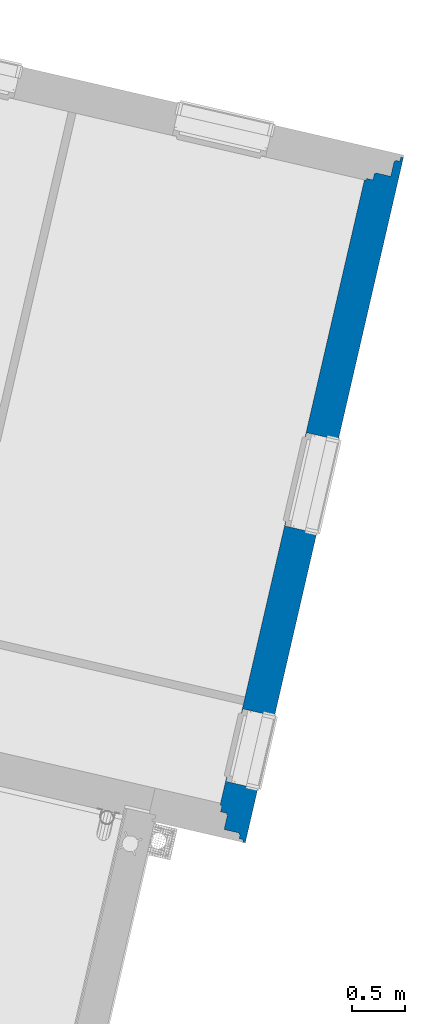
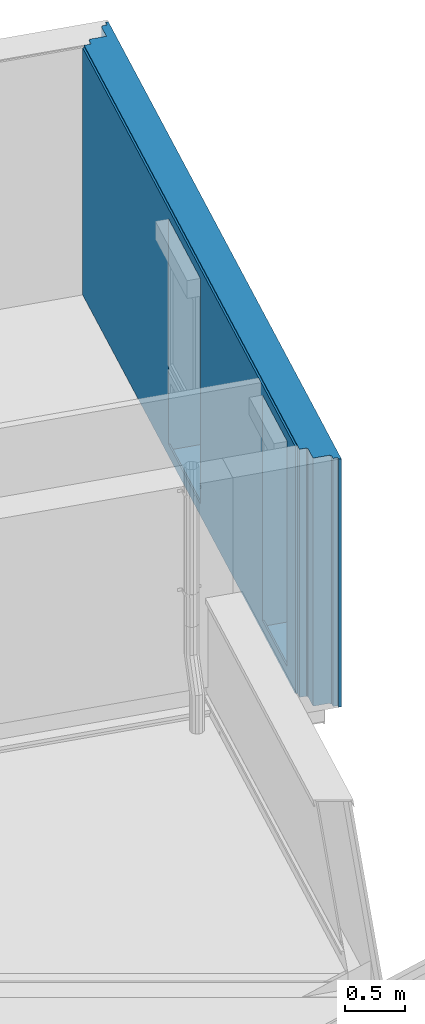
# One storey, part 3 of 47: 1 wall, 2 openings.
"""IFC2X3 building model written with IfcOpenShell, lengths in metres."""

from ifc_helpers import new_model, entity, si_unit, converted_unit, derived_unit, money_unit, direction, frame, origin_with_axes, place, context, subcontext, project, spatial, faceted_brep, material, material_list, type_object, element, save


model = new_model("IFC2X3")

# Units and contexts
model_context = context("Model", 3, precision=1e-05, world=origin_with_axes(), true_north=direction((0.0, 1.0)))
body_context = subcontext(model_context, "Body", "Model", "MODEL_VIEW")
ifc_project = project(units=[si_unit("LENGTHUNIT", "METRE"), si_unit("AREAUNIT", "SQUARE_METRE"), si_unit("VOLUMEUNIT", "CUBIC_METRE"), converted_unit("PLANEANGLEUNIT", "DEGREE", entity("IfcPlaneAngleMeasure", 0.0174532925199), si_unit("PLANEANGLEUNIT", "RADIAN"), dimensions=[0, 0, 0, 0, 0, 0, 0]), si_unit("SOLIDANGLEUNIT", "STERADIAN"), money_unit("EUR"), converted_unit("TIMEUNIT", "Year", entity("IfcTimeMeasure", 31556926.0), si_unit("TIMEUNIT", "SECOND"), dimensions=[0, 0, 1, 0, 0, 0, 0]), si_unit("MASSUNIT", "GRAM", prefix="KILO"), si_unit("THERMODYNAMICTEMPERATUREUNIT", "DEGREE_CELSIUS"), si_unit("LUMINOUSINTENSITYUNIT", "LUMEN"), si_unit("ENERGYUNIT", "JOULE", prefix="MEGA"), derived_unit("THERMALCONDUCTANCEUNIT", [(si_unit("POWERUNIT", "WATT"), 1), (si_unit("LENGTHUNIT", "METRE"), -1), (si_unit("THERMODYNAMICTEMPERATUREUNIT", "KELVIN"), -1)]), derived_unit("SPECIFICHEATCAPACITYUNIT", [(si_unit("ENERGYUNIT", "JOULE"), 1), (si_unit("MASSUNIT", "GRAM", prefix="KILO"), -1), (si_unit("THERMODYNAMICTEMPERATUREUNIT", "KELVIN"), -1)]), derived_unit("MASSDENSITYUNIT", [(si_unit("MASSUNIT", "GRAM", prefix="KILO"), 1), (si_unit("VOLUMEUNIT", "CUBIC_METRE"), -1)])], contexts=[model_context])

# Site, building, storey
site_placement = place(None, origin_with_axes())
site = spatial("IfcSite", under=ifc_project, at=site_placement, Name="Site", CompositionType="ELEMENT")
building_placement = place(site_placement, origin_with_axes())
building = spatial("IfcBuilding", under=site, at=building_placement, Name="Bâtiment", CompositionType="ELEMENT")
storey_placement = place(building_placement, frame((0.0, 0.0, 10.88), z_axis=(0.0, 0.0, 1.0), x_axis=(1.0, 0.0, 0.0)))
storey = spatial("IfcBuildingStorey", under=building, at=storey_placement, Name="R+4", CompositionType="ELEMENT", Elevation=10.88)

# Wall, openings
ifc_material_1 = material(Name="Finition ext - Bardage bois")
ifc_material_2 = material(Name="Bois - Lattage")
ifc_material_3 = material(Name="Bois - OSB 02")
ifc_material_4 = material(Name="Isolation - Laine de verre")
ifc_material_5 = material(Name="Etanchéité - Pare-vapeur")
ifc_material_6 = material(Name="Finition int - Plaque de plâtre")
ifc_material_list = material_list([ifc_material_1, ifc_material_2, ifc_material_3, ifc_material_4, ifc_material_5, ifc_material_4, ifc_material_6])
wall_type = type_object("IfcWallType", Name="1 - Mur Ossature Bois 145 isolé + bardage 310", PredefinedType="ELEMENTEDWALL")
wall_placement = place(storey_placement, frame((1.24356243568, 12.8226393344, 0.0), z_axis=(0.0, 0.0, 1.0), x_axis=(-0.224876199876, -0.974387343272, 0.0)))
wall = element("IfcWall", 1, at=wall_placement, inside=storey, type_object=wall_type, material=ifc_material_list, Name="M_Ext-007", ObjectType="ELEMENTEDWALL", context=body_context, shape_type="Brep", body=[
    faceted_brep([(5.40779590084, -0.01, 0.12), (5.40779590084, 0.015, 0.12), (5.40779590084, 0.015, 2.22), (5.40779590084, -0.01, 2.22), (5.40779590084, 0.015, 0.06), (5.40779590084, -0.01, 0.06), (6.62900000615, 0.015, 2.51), (6.62900000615, 0.015, 0.0), (0.0249999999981, 0.015, 0.0), (0.0249999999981, 0.015, 2.51), (3.64526385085, 0.015, 0.06), (3.64526385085, 0.015, 0.12), (3.64526385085, 0.015, 2.22), (2.74526385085, 0.015, 2.22), (2.74526385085, 0.015, 0.12), (2.74526385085, 0.015, 0.06), (6.10779590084, 0.015, 0.06), (6.10779590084, 0.015, 0.12), (6.10779590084, 0.015, 2.22), (6.10779590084, -0.01, 2.22), (6.62900000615, -0.01, 0.0), (6.62900000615, -0.01, 2.51), (0.0250000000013, -0.01, 2.51), (0.0250000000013, -0.01, 0.0), (2.74526385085, -0.01, 0.06), (2.74526385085, -0.01, 0.12), (2.74526385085, -0.01, 2.22), (3.64526385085, -0.01, 2.22), (3.64526385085, -0.01, 0.12), (3.64526385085, -0.01, 0.06), (6.10779590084, -0.01, 0.12), (6.10779590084, -0.01, 0.06)], [[[0, 1, 2, 3]], [[4, 1, 0, 5]], [[6, 7, 8, 9], [10, 11, 12, 13, 14, 15], [16, 17, 18, 2, 1, 4]], [[18, 19, 3, 2]], [[20, 21, 22, 23], [24, 25, 26, 27, 28, 29], [5, 0, 3, 19, 30, 31]], [[16, 4, 5, 31]], [[6, 21, 20, 7]], [[7, 20, 23, 8]], [[23, 22, 9, 8]], [[21, 6, 9, 22]], [[10, 29, 28, 11]], [[27, 12, 11, 28]], [[26, 13, 12, 27]], [[13, 26, 25, 14]], [[25, 24, 15, 14]], [[24, 29, 10, 15]], [[30, 17, 16, 31]], [[17, 30, 19, 18]]]),
    faceted_brep([(5.40779590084, -0.05, 0.12), (5.40779590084, -0.05, 0.06), (5.40779590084, -0.01, 0.06), (5.40779590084, -0.01, 0.12), (5.40779590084, -0.01, 2.22), (5.40779590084, -0.05, 2.22), (6.60400000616, -0.05, 0.0), (6.60400000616, -0.05, 2.51), (0.0650000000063, -0.05, 2.51), (0.0650000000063, -0.05, 0.0), (2.74526385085, -0.05, 0.06), (2.74526385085, -0.05, 0.12), (2.74526385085, -0.05, 2.22), (3.64526385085, -0.05, 2.22), (3.64526385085, -0.05, 0.12), (3.64526385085, -0.05, 0.06), (6.10779590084, -0.05, 2.22), (6.10779590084, -0.05, 0.12), (6.10779590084, -0.05, 0.06), (6.10779590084, -0.01, 0.06), (6.60400000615, -0.01, 2.51), (6.60400000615, -0.01, 0.0), (0.0650000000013, -0.01, 0.0), (0.0650000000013, -0.01, 2.51), (3.64526385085, -0.01, 0.06), (3.64526385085, -0.01, 0.12), (3.64526385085, -0.01, 2.22), (2.74526385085, -0.01, 2.22), (2.74526385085, -0.01, 0.12), (2.74526385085, -0.01, 0.06), (6.10779590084, -0.01, 0.12), (6.10779590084, -0.01, 2.22)], [[[0, 1, 2, 3, 4, 5]], [[6, 7, 8, 9], [10, 11, 12, 13, 14, 15], [1, 0, 5, 16, 17, 18]], [[19, 2, 1, 18]], [[20, 21, 22, 23], [24, 25, 26, 27, 28, 29], [19, 30, 31, 4, 3, 2]], [[31, 16, 5, 4]], [[20, 7, 6, 21]], [[7, 20, 23, 8]], [[9, 8, 23, 22]], [[21, 6, 9, 22]], [[11, 10, 29, 28, 27, 12]], [[12, 27, 26, 13]], [[25, 24, 15, 14, 13, 26]], [[10, 15, 24, 29]], [[30, 19, 18, 17, 16, 31]]]),
    faceted_brep([(5.40779590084, -0.062, 0.12), (5.40779590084, -0.062, 0.06), (5.40779590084, -0.05, 0.06), (5.40779590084, -0.05, 0.12), (5.40779590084, -0.05, 2.22), (5.40779590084, -0.062, 2.22), (6.56400000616, -0.062, 0.0), (6.56400000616, -0.062, 2.51), (0.0770000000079, -0.062, 2.51), (0.0770000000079, -0.062, 0.0), (2.74526385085, -0.062, 0.06), (2.74526385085, -0.062, 0.12), (2.74526385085, -0.062, 2.22), (3.64526385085, -0.062, 2.22), (3.64526385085, -0.062, 0.12), (3.64526385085, -0.062, 0.06), (6.10779590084, -0.062, 2.22), (6.10779590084, -0.062, 0.12), (6.10779590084, -0.062, 0.06), (6.10779590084, -0.05, 0.06), (6.56400000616, -0.05, 2.51), (6.56400000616, -0.05, 0.0), (0.0770000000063, -0.05, 0.0), (0.0770000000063, -0.05, 2.51), (3.64526385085, -0.05, 0.06), (3.64526385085, -0.05, 0.12), (3.64526385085, -0.05, 2.22), (2.74526385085, -0.05, 2.22), (2.74526385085, -0.05, 0.12), (2.74526385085, -0.05, 0.06), (6.10779590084, -0.05, 0.12), (6.10779590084, -0.05, 2.22)], [[[0, 1, 2, 3, 4, 5]], [[6, 7, 8, 9], [10, 11, 12, 13, 14, 15], [1, 0, 5, 16, 17, 18]], [[19, 2, 1, 18]], [[20, 21, 22, 23], [24, 25, 26, 27, 28, 29], [19, 30, 31, 4, 3, 2]], [[31, 16, 5, 4]], [[20, 7, 6, 21]], [[7, 20, 23, 8]], [[9, 8, 23, 22]], [[21, 6, 9, 22]], [[11, 10, 29, 28, 27, 12]], [[12, 27, 26, 13]], [[25, 24, 15, 14, 13, 26]], [[10, 15, 24, 29]], [[30, 19, 18, 17, 16, 31]]]),
    faceted_brep([(5.40779590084, -0.207, 0.12), (5.40779590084, -0.207, 0.06), (5.40779590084, -0.062, 0.06), (5.40779590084, -0.062, 0.12), (5.40779590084, -0.062, 2.22), (5.40779590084, -0.207, 2.22), (6.55200000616, -0.207, 0.0), (6.55200000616, -0.207, 2.51), (0.222000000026, -0.207, 2.51), (0.222000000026, -0.207, 0.0), (2.74526385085, -0.207, 0.06), (2.74526385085, -0.207, 0.12), (2.74526385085, -0.207, 2.22), (3.64526385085, -0.207, 2.22), (3.64526385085, -0.207, 0.12), (3.64526385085, -0.207, 0.06), (6.10779590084, -0.207, 2.22), (6.10779590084, -0.207, 0.12), (6.10779590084, -0.207, 0.06), (6.10779590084, -0.062, 0.06), (6.55200000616, -0.062, 2.51), (6.55200000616, -0.062, 0.0), (0.222000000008, -0.062, 0.0), (0.222000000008, -0.062, 2.51), (3.64526385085, -0.062, 0.06), (3.64526385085, -0.062, 0.12), (3.64526385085, -0.062, 2.22), (2.74526385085, -0.062, 2.22), (2.74526385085, -0.062, 0.12), (2.74526385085, -0.062, 0.06), (6.10779590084, -0.062, 0.12), (6.10779590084, -0.062, 2.22)], [[[0, 1, 2, 3, 4, 5]], [[6, 7, 8, 9], [10, 11, 12, 13, 14, 15], [1, 0, 5, 16, 17, 18]], [[19, 2, 1, 18]], [[20, 21, 22, 23], [24, 25, 26, 27, 28, 29], [19, 30, 31, 4, 3, 2]], [[31, 16, 5, 4]], [[20, 7, 6, 21]], [[7, 20, 23, 8]], [[9, 8, 23, 22]], [[21, 6, 9, 22]], [[11, 10, 29, 28, 27, 12]], [[12, 27, 26, 13]], [[25, 24, 15, 14, 13, 26]], [[10, 15, 24, 29]], [[30, 19, 18, 17, 16, 31]]]),
    faceted_brep([(5.40779590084, -0.217, 0.12), (5.40779590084, -0.217, 0.06), (5.40779590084, -0.207, 0.06), (5.40779590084, -0.207, 0.12), (5.40779590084, -0.207, 2.22), (5.40779590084, -0.21, 2.22), (5.40779590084, -0.21, 2.4), (5.40779590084, -0.217, 2.4), (5.40779590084, -0.217, 2.22), (0.232000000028, -0.217, 2.51), (0.232000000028, -0.217, 0.0), (6.40700000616, -0.217, 0.0), (6.40700000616, -0.217, 2.51), (3.64526385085, -0.217, 0.06), (2.74526385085, -0.217, 0.06), (2.74526385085, -0.217, 0.12), (2.74526385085, -0.217, 2.22), (2.74526385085, -0.217, 2.4), (3.64526385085, -0.217, 2.4), (3.64526385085, -0.217, 2.22), (3.64526385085, -0.217, 0.12), (6.10779590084, -0.217, 2.4), (6.10779590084, -0.217, 2.22), (6.10779590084, -0.217, 0.12), (6.10779590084, -0.217, 0.06), (6.10779590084, -0.207, 0.06), (0.232000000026, -0.207, 0.0), (0.232000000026, -0.207, 2.51), (6.40700000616, -0.207, 2.51), (6.40700000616, -0.207, 0.0), (2.74526385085, -0.207, 2.22), (2.74526385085, -0.207, 0.12), (2.74526385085, -0.207, 0.06), (3.64526385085, -0.207, 0.06), (3.64526385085, -0.207, 0.12), (3.64526385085, -0.207, 2.22), (6.10779590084, -0.207, 0.12), (6.10779590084, -0.207, 2.22), (6.10779590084, -0.21, 2.22), (6.10779590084, -0.21, 2.4), (2.74526385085, -0.21, 2.22), (2.74526385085, -0.21, 2.4), (3.64526385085, -0.21, 2.4), (3.64526385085, -0.21, 2.22)], [[[0, 1, 2, 3, 4, 5, 6, 7, 8]], [[9, 10, 11, 12], [13, 14, 15, 16, 17, 18, 19, 20], [1, 0, 8, 7, 21, 22, 23, 24]], [[25, 2, 1, 24]], [[26, 27, 28, 29], [30, 31, 32, 33, 34, 35], [25, 36, 37, 4, 3, 2]], [[5, 4, 37, 38]], [[38, 39, 6, 5]], [[7, 6, 39, 21]], [[27, 26, 10, 9]], [[10, 26, 29, 11]], [[11, 29, 28, 12]], [[27, 9, 12, 28]], [[13, 33, 32, 14]], [[15, 14, 32, 31, 30, 40, 41, 17, 16]], [[18, 17, 41, 42]], [[34, 33, 13, 20, 19, 18, 42, 43, 35]], [[36, 25, 24, 23, 22, 21, 39, 38, 37]], [[43, 40, 30, 35]], [[40, 43, 42, 41]]]),
    faceted_brep([(5.40779590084, -0.277, 0.12), (5.40779590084, -0.277, 0.06), (5.40779590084, -0.217, 0.06), (5.40779590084, -0.217, 0.12), (5.40779590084, -0.217, 2.22), (5.40779590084, -0.217, 2.4), (5.40779590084, -0.277, 2.4), (5.40779590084, -0.277, 2.22), (6.39700000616, -0.277, 0.0), (6.39700000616, -0.277, 2.51), (0.292000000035, -0.277, 2.51), (0.292000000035, -0.277, 0.0), (3.64526385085, -0.277, 2.4), (3.64526385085, -0.277, 2.22), (3.64526385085, -0.277, 0.12), (3.64526385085, -0.277, 0.06), (2.74526385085, -0.277, 0.06), (2.74526385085, -0.277, 0.12), (2.74526385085, -0.277, 2.22), (2.74526385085, -0.277, 2.4), (6.10779590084, -0.277, 2.4), (6.10779590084, -0.277, 2.22), (6.10779590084, -0.277, 0.12), (6.10779590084, -0.277, 0.06), (6.10779590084, -0.217, 0.06), (6.39700000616, -0.217, 2.51), (6.39700000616, -0.217, 0.0), (0.292000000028, -0.217, 0.0), (0.292000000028, -0.217, 2.51), (2.74526385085, -0.217, 2.4), (2.74526385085, -0.217, 2.22), (2.74526385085, -0.217, 0.12), (2.74526385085, -0.217, 0.06), (3.64526385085, -0.217, 0.06), (3.64526385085, -0.217, 0.12), (3.64526385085, -0.217, 2.22), (3.64526385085, -0.217, 2.4), (6.10779590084, -0.217, 0.12), (6.10779590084, -0.217, 2.22), (6.10779590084, -0.217, 2.4)], [[[0, 1, 2, 3, 4, 5, 6, 7]], [[8, 9, 10, 11], [12, 13, 14, 15, 16, 17, 18, 19], [1, 0, 7, 6, 20, 21, 22, 23]], [[24, 2, 1, 23]], [[25, 26, 27, 28], [29, 30, 31, 32, 33, 34, 35, 36], [24, 37, 38, 39, 5, 4, 3, 2]], [[39, 20, 6, 5]], [[25, 9, 8, 26]], [[9, 25, 28, 10]], [[11, 10, 28, 27]], [[26, 8, 11, 27]], [[13, 12, 36, 35, 34, 33, 15, 14]], [[33, 32, 16, 15]], [[30, 29, 19, 18, 17, 16, 32, 31]], [[36, 12, 19, 29]], [[37, 24, 23, 22, 21, 20, 39, 38]]]),
    faceted_brep([(5.40779590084, -0.281, 0.12), (5.40779590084, -0.281, 0.06), (5.40779590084, -0.277, 0.06), (5.40779590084, -0.277, 0.12), (5.40779590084, -0.277, 2.22), (5.40779590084, -0.277, 2.4), (5.40779590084, -0.295, 2.4), (5.40779590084, -0.295, 2.22), (5.40779590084, -0.295, 0.12), (6.10779590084, -0.281, 0.12), (6.10779590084, -0.281, 0.06), (6.10779590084, -0.277, 0.06), (6.33700000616, -0.277, 0.0), (0.310000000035, -0.277, 0.0), (0.310000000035, -0.277, 2.5), (6.33700000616, -0.277, 2.5), (2.74526385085, -0.277, 0.06), (3.64526385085, -0.277, 0.06), (3.64526385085, -0.277, 0.12), (3.64526385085, -0.277, 2.22), (3.64526385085, -0.277, 2.4), (2.74526385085, -0.277, 2.4), (2.74526385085, -0.277, 2.22), (2.74526385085, -0.277, 0.12), (6.10779590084, -0.277, 0.12), (6.10779590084, -0.277, 2.22), (6.10779590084, -0.277, 2.4), (6.10779590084, -0.295, 2.4), (0.310000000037, -0.295, 0.0), (6.33700000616, -0.295, 0.0), (6.33700000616, -0.295, 2.5), (0.310000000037, -0.295, 2.5), (3.64526385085, -0.295, 2.4), (3.64526385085, -0.295, 2.22), (3.64526385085, -0.295, 0.12), (2.74526385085, -0.295, 0.12), (2.74526385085, -0.295, 2.22), (2.74526385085, -0.295, 2.4), (6.10779590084, -0.295, 2.22), (6.10779590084, -0.295, 0.12), (3.64526385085, -0.281, 0.06), (2.74526385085, -0.281, 0.06), (3.64526385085, -0.281, 0.12), (2.74526385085, -0.281, 0.12)], [[[0, 1, 2, 3, 4, 5, 6, 7, 8]], [[0, 9, 10, 1]], [[11, 2, 1, 10]], [[12, 13, 14, 15], [16, 17, 18, 19, 20, 21, 22, 23], [11, 24, 25, 26, 5, 4, 3, 2]], [[26, 27, 6, 5]], [[28, 29, 30, 31], [32, 33, 34, 35, 36, 37], [8, 7, 6, 27, 38, 39]], [[9, 0, 8, 39]], [[24, 11, 10, 9, 39, 38, 27, 26, 25]], [[28, 13, 12, 29]], [[13, 28, 31, 14]], [[31, 30, 15, 14]], [[29, 12, 15, 30]], [[40, 17, 16, 41]], [[18, 17, 40, 42, 34, 33, 32, 20, 19]], [[21, 20, 32, 37]], [[43, 41, 16, 23, 22, 21, 37, 36, 35]], [[34, 42, 43, 35]], [[41, 43, 42, 40]]]),
])
opening_1_placement = place(wall_placement, frame((3.19526385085, 0.0, 0.12), z_axis=(0.0, 0.0, 1.0), x_axis=(1.0, 0.0, 0.0)))
element("IfcOpeningElement", 2, at=opening_1_placement, cuts=wall, Name="MEN 124", context=body_context, shape_type="Brep", body=[
    faceted_brep([(-0.45, -0.24, 0.0), (0.45, -0.24, 0.0), (0.45, -0.805, 0.0), (-0.45, -0.805, 0.0), (-0.45, -0.24, 2.1), (0.45, -0.24, 2.1), (0.45, -0.805, 2.1), (-0.45, -0.805, 2.1)], [[[0, 1, 2, 3]], [[0, 4, 5, 1]], [[1, 5, 6, 2]], [[3, 2, 6, 7]], [[4, 0, 3, 7]], [[5, 4, 7, 6]]]),
    faceted_brep([(-0.45, -0.24, 0.0), (-0.45, -0.24, 2.1), (-0.45, 0.325, 2.1), (-0.45, 0.325, 0.0), (0.45, -0.24, 0.0), (0.45, -0.24, 2.1), (0.45, 0.325, 2.1), (0.45, 0.325, 0.0)], [[[0, 1, 2, 3]], [[0, 4, 5, 1]], [[1, 5, 6, 2]], [[3, 2, 6, 7]], [[4, 0, 3, 7]], [[5, 4, 7, 6]]]),
    faceted_brep([(-0.45, -0.24, 0.0), (-0.45, -0.24, 2.1), (-0.45, 0.325, 2.1), (-0.45, 0.325, 0.0), (0.45, -0.24, 0.0), (0.45, -0.24, 2.1), (0.45, 0.325, 2.1), (0.45, 0.325, 0.0)], [[[0, 1, 2, 3]], [[0, 4, 5, 1]], [[1, 5, 6, 2]], [[3, 2, 6, 7]], [[4, 0, 3, 7]], [[5, 4, 7, 6]]]),
    faceted_brep([(-0.45, -0.21, 2.1), (0.45, -0.21, 2.1), (0.45, -0.775, 2.1), (-0.45, -0.775, 2.1), (-0.45, -0.21, 2.28), (0.45, -0.21, 2.28), (0.45, -0.775, 2.28), (-0.45, -0.775, 2.28)], [[[0, 1, 2, 3]], [[0, 4, 5, 1]], [[1, 5, 6, 2]], [[3, 2, 6, 7]], [[4, 0, 3, 7]], [[5, 4, 7, 6]]]),
    faceted_brep([(-0.45, -0.281, 0.0), (0.45, -0.281, 0.0), (0.45, 0.284, 0.0), (-0.45, 0.284, 0.0), (-0.45, -0.281, -0.06), (0.45, -0.281, -0.06), (0.45, 0.284, -0.06), (-0.45, 0.284, -0.06)], [[[0, 1, 2, 3]], [[0, 4, 5, 1]], [[1, 5, 6, 2]], [[3, 2, 6, 7]], [[4, 0, 3, 7]], [[5, 4, 7, 6]]]),
])
opening_2_placement = place(wall_placement, frame((5.75779590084, 0.0, 0.12), z_axis=(0.0, 0.0, 1.0), x_axis=(1.0, 0.0, 0.0)))
element("IfcOpeningElement", 3, at=opening_2_placement, cuts=wall, Name="MEN 123", context=body_context, shape_type="Brep", body=[
    faceted_brep([(0.35, -0.805, 0.0), (-0.35, -0.805, 0.0), (-0.35, -0.24, 0.0), (0.35, -0.24, 0.0), (0.35, -0.805, 2.1), (-0.35, -0.805, 2.1), (-0.35, -0.24, 2.1), (0.35, -0.24, 2.1)], [[[0, 1, 2, 3]], [[0, 4, 5, 1]], [[1, 5, 6, 2]], [[3, 2, 6, 7]], [[4, 0, 3, 7]], [[5, 4, 7, 6]]]),
    faceted_brep([(0.35, 0.325, 0.0), (0.35, 0.325, 2.1), (0.35, -0.24, 2.1), (0.35, -0.24, 0.0), (-0.35, 0.325, 0.0), (-0.35, 0.325, 2.1), (-0.35, -0.24, 2.1), (-0.35, -0.24, 0.0)], [[[0, 1, 2, 3]], [[0, 4, 5, 1]], [[1, 5, 6, 2]], [[3, 2, 6, 7]], [[4, 0, 3, 7]], [[5, 4, 7, 6]]]),
    faceted_brep([(0.35, 0.325, 0.0), (0.35, 0.325, 2.1), (0.35, -0.24, 2.1), (0.35, -0.24, 0.0), (-0.35, 0.325, 0.0), (-0.35, 0.325, 2.1), (-0.35, -0.24, 2.1), (-0.35, -0.24, 0.0)], [[[0, 1, 2, 3]], [[0, 4, 5, 1]], [[1, 5, 6, 2]], [[3, 2, 6, 7]], [[4, 0, 3, 7]], [[5, 4, 7, 6]]]),
    faceted_brep([(0.35, -0.775, 2.1), (-0.35, -0.775, 2.1), (-0.35, -0.21, 2.1), (0.35, -0.21, 2.1), (0.35, -0.775, 2.28), (-0.35, -0.775, 2.28), (-0.35, -0.21, 2.28), (0.35, -0.21, 2.28)], [[[0, 1, 2, 3]], [[0, 4, 5, 1]], [[1, 5, 6, 2]], [[3, 2, 6, 7]], [[4, 0, 3, 7]], [[5, 4, 7, 6]]]),
    faceted_brep([(0.35, 0.284, 0.0), (-0.35, 0.284, 0.0), (-0.35, -0.281, 0.0), (0.35, -0.281, 0.0), (0.35, 0.284, -0.06), (-0.35, 0.284, -0.06), (-0.35, -0.281, -0.06), (0.35, -0.281, -0.06)], [[[0, 1, 2, 3]], [[0, 4, 5, 1]], [[1, 5, 6, 2]], [[3, 2, 6, 7]], [[4, 0, 3, 7]], [[5, 4, 7, 6]]]),
])

save(model, "model.ifc")
